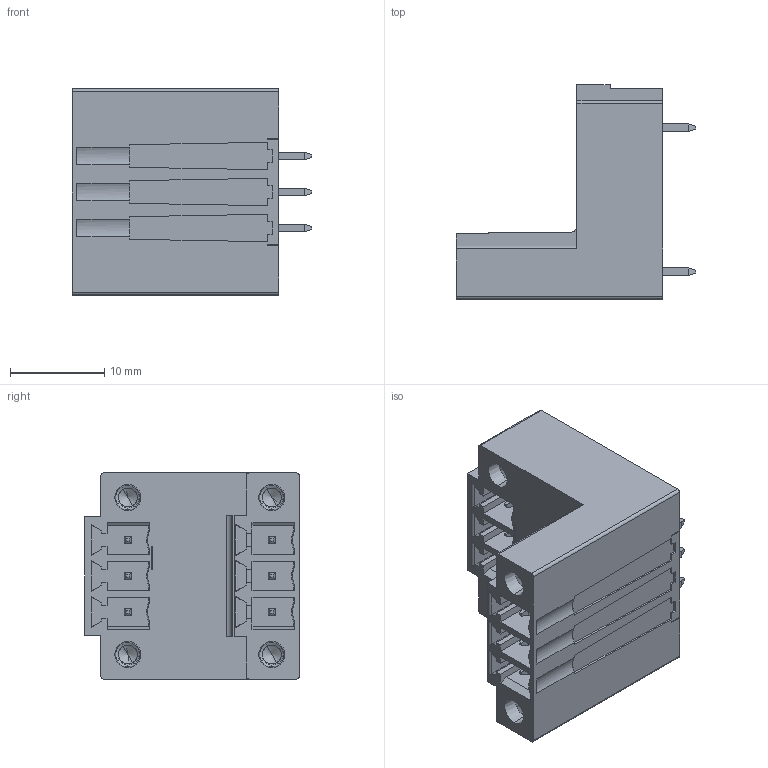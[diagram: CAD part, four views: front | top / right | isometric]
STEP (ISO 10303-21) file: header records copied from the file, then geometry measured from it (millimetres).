
FILE_DESCRIPTION((''),'2;1');
FILE_NAME('3PIN_SW0001','2019-06-04T',('zhenbing.lai'),(''),'CREO PARAMETRIC BY PTC INC, 2016260','CREO PARAMETRIC BY PTC INC, 2016260','');
FILE_SCHEMA(('CONFIG_CONTROL_DESIGN'));
Length unit declared in the file: millimetre
Products named in the file (1): 3PIN_SW0001
Bounding box: 25.4 x 22.7 x 21.82 mm (x, y, z)
Volume: 4836.1 mm3; surface area: 5362.4 mm2
Topology: 1 solids, 4 shells, 649 faces, 1693 edges, 1091 vertices
Faces by surface type: plane 477, cylinder 102, cone 46, bspline 24
Entity records: 34740 total; most frequent: CARTESIAN_POINT 19377, ORIENTED_EDGE 3370, DIRECTION 2760, EDGE_CURVE 1685, VECTOR 1292, LINE 1292, VERTEX_POINT 1091, AXIS2_PLACEMENT_3D 734
